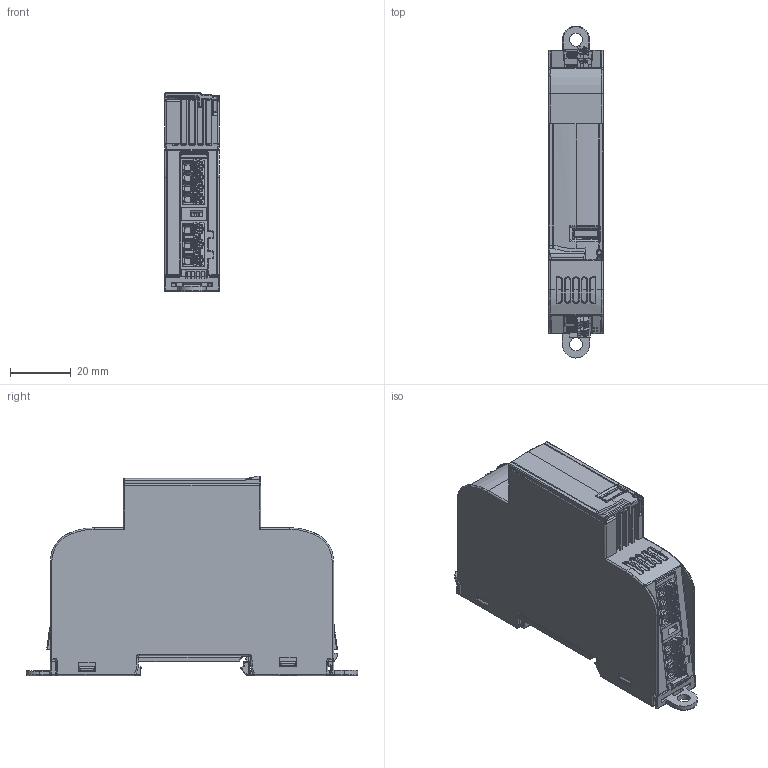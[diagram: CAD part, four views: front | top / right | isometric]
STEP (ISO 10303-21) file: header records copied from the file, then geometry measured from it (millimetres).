
FILE_DESCRIPTION (( 'STEP AP203' ), '1' );
FILE_NAME ('CEP41xR-2M_w_SC.STEP', '2025-11-05T13:59:49', ( 'Administrator' ), ( '' ), 'SwSTEP 2.0', 'SolidWorks 2024', '' );
FILE_SCHEMA (( 'CONFIG_CONTROL_DESIGN' ));
Length unit declared in the file: millimetre
Products named in the file (1): CEP41xR-2M_w_SC
Bounding box: 18 x 109 x 65.38 mm (x, y, z)
Volume: 83868.1 mm3; surface area: 21706.8 mm2
Topology: 2 solids, 14 shells, 3873 faces, 9989 edges, 6078 vertices
Faces by surface type: plane 1382, cylinder 1234, bspline 818, torus 277, sphere 131, cone 31
Entity records: 177636 total; most frequent: CARTESIAN_POINT 90996, ORIENTED_EDGE 19738, DIRECTION 16084, EDGE_CURVE 9869, VERTEX_POINT 6072, AXIS2_PLACEMENT_3D 5641, VECTOR 4802, LINE 4802
